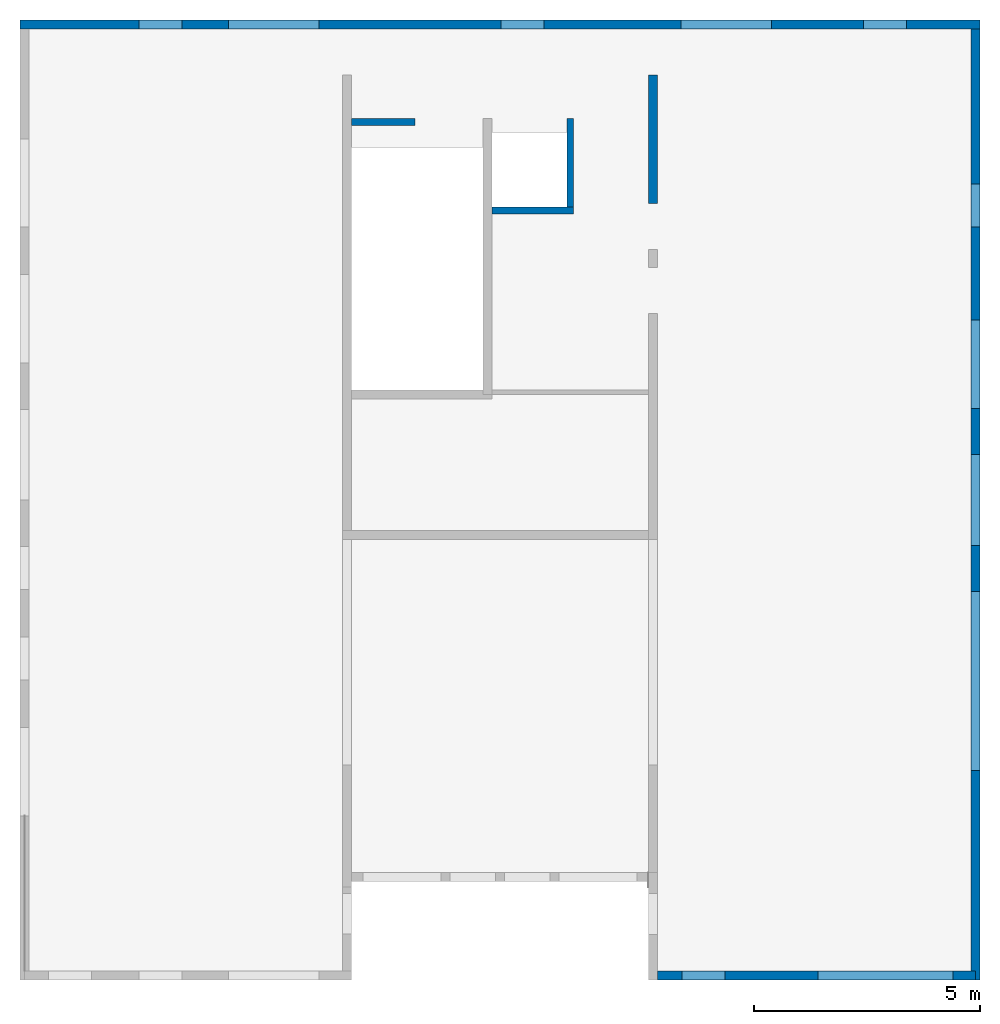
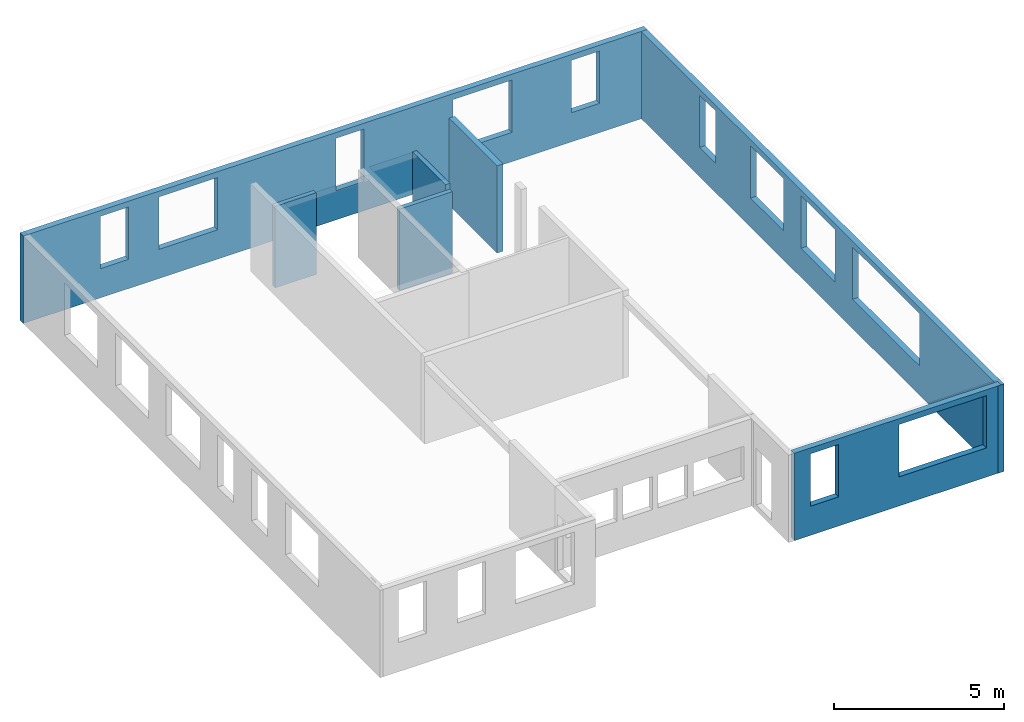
# One storey, part 3 of 3: 7 walls, 11 openings.
"""IFC2X3 building model written with IfcOpenShell, lengths in millimetres."""

from ifc_helpers import new_model, entity, si_unit, converted_unit, frame, frame_2d, origin, origin_with_axes, place, context, subcontext, project, spatial, polyline, rectangle, outline, extrude, material, layer, layer_set, layer_usage, element, save


model = new_model("IFC2X3")

# Units and contexts
model_context = context("Model", 3, precision=1e-05, world=origin())
body_context = subcontext(model_context, "Body", "Model", "MODEL_VIEW")
ifc_project = project(units=[si_unit("LENGTHUNIT", "METRE", prefix="MILLI"), converted_unit("PLANEANGLEUNIT", "DEGREE", entity("IfcPlaneAngleMeasure", 0.0174532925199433), si_unit("PLANEANGLEUNIT", "RADIAN"), dimensions=[0, 0, 0, 0, 0, 0, 0]), si_unit("AREAUNIT", "SQUARE_METRE"), si_unit("VOLUMEUNIT", "CUBIC_METRE")], contexts=[model_context])

# Building, storey
building_placement = place(None, origin())
building = spatial("IfcBuilding", under=ifc_project, at=building_placement, Name="Bâtiment", CompositionType="ELEMENT")
storey_placement = place(building_placement, frame((0.0, 0.0, 8450.0), z_axis=(0.0, 0.0, 1.0), x_axis=(1.0, 0.0, 0.0)))
storey = spatial("IfcBuildingStorey", under=building, at=storey_placement, Name="2. Etage supérieur", CompositionType="ELEMENT", Elevation=8450.0)

# Walls
ifc_material_1 = material(Name="<Unnamed Material>")
ifc_layer_1 = layer(ifc_material_1, 150.0)
ifc_layer_set_1 = layer_set([ifc_layer_1])
ifc_layer_usage_1 = layer_usage(ifc_layer_set_1, "AXIS2", "POSITIVE", -150.0)
wall_1_placement = place(storey_placement, frame((8181.015023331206, -14991.65782343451, -200.0), z_axis=(0.0, 0.0, 1.0), x_axis=(0.9999999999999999, 6.463777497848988e-14, 0.0)))
element("IfcWallStandardCase", 1, at=wall_1_placement, inside=storey, material=ifc_layer_usage_1, Name="<Unnamed Element>", context=body_context, shape_type="SweptSolid", body=[
    extrude(rectangle(XDim=1801.041602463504, YDim=150.0, at=frame_2d((900.5208012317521, 74.99999999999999), x_axis=(1.0, 0.0))), origin_with_axes(), (0.0, 0.0, 1.0), 2930.0),
])
ifc_material_2 = material(Name="<Unnamed Material>")
ifc_layer_2 = layer(ifc_material_2, 150.0)
ifc_layer_set_2 = layer_set([ifc_layer_2])
ifc_layer_usage_2 = layer_usage(ifc_layer_set_2, "AXIS2", "POSITIVE", -150.0)
wall_2_placement = place(storey_placement, frame((5082.184242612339, -13042.14547497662, -200.0), z_axis=(0.0, 0.0, 1.0), x_axis=(1.0, 0.0, 0.0)))
element("IfcWallStandardCase", 2, at=wall_2_placement, inside=storey, material=ifc_layer_usage_2, Name="<Unnamed Element>", context=body_context, shape_type="SweptSolid", body=[
    extrude(rectangle(XDim=1399.124954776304, YDim=150.0, at=frame_2d((699.5624773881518, 75.0), x_axis=(1.0, 0.0))), origin_with_axes(), (0.0, 0.0, 1.0), 2930.0),
])
ifc_material_3 = material(Name="<Unnamed Material>")
ifc_layer_3 = layer(ifc_material_3, 200.0)
ifc_layer_set_3 = layer_set([ifc_layer_3])
ifc_layer_usage_3 = layer_usage(ifc_layer_set_3, "AXIS2", "POSITIVE", 0.0)
wall_3_placement = place(storey_placement, frame((11832.34332290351, -14763.33342215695, -200.0), z_axis=(0.0, 0.0, 1.0), x_axis=(-1.926780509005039e-14, 0.9999999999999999, 0.0)))
element("IfcWallStandardCase", 3, at=wall_3_placement, inside=storey, material=ifc_layer_usage_3, Name="<Unnamed Element>", context=body_context, shape_type="SweptSolid", body=[
    extrude(rectangle(XDim=2832.169095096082, YDim=200.0, at=frame_2d((1416.084547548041, 99.99999999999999), x_axis=(1.0, 0.0))), origin_with_axes(), (0.0, 0.0, 1.0), 3139.999999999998),
])
ifc_material_4 = material(Name="<Unnamed Material>")
ifc_layer_4 = layer(ifc_material_4, 150.0)
ifc_layer_set_4 = layer_set([ifc_layer_4])
ifc_layer_usage_4 = layer_usage(ifc_layer_set_4, "AXIS2", "POSITIVE", -150.0)
wall_4_placement = place(storey_placement, frame((9982.056625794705, -14841.6578234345, -200.0), z_axis=(0.0, 0.0, 1.0), x_axis=(-3.358974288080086e-14, 0.9999999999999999, 0.0)))
element("IfcWallStandardCase", 4, at=wall_4_placement, inside=storey, material=ifc_layer_usage_4, Name="<Unnamed Element>", context=body_context, shape_type="SweptSolid", body=[
    extrude(rectangle(XDim=1949.512348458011, YDim=150.0, at=frame_2d((974.7561742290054, 74.99999999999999), x_axis=(1.0, 0.0))), origin_with_axes(), (0.0, 0.0, 1.0), 3139.999999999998),
])

# Wall, openings
ifc_material_5 = material(Name="<Unnamed Material>")
ifc_layer_5 = layer(ifc_material_5, 200.0)
ifc_layer_set_5 = layer_set([ifc_layer_5])
ifc_layer_usage_5 = layer_usage(ifc_layer_set_5, "AXIS2", "POSITIVE", -100.0)
wall_5_placement = place(storey_placement, frame((18855.56767275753, -31711.24569822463, -200.0), z_axis=(0.0, 0.0, 1.0), x_axis=(-0.9999999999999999, 0.0, 0.0)))
wall_5 = element("IfcWallStandardCase", 5, at=wall_5_placement, inside=storey, material=ifc_layer_usage_5, Name="<Unnamed Element>", context=body_context, shape_type="SweptSolid", body=[
    extrude(outline(polyline([(0.0, 0.0), (7024.28659565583, 0.0), (7024.327562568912, 200.0), (0.0, 200.0), (0.0, 0.0)])), origin_with_axes(), (0.0, 0.0, 1.0), 3139.999999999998),
])
opening_1_placement = place(wall_5_placement, frame((498.5222623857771, 0.0, 1050.0), z_axis=(0.0, 1.0, 0.0), x_axis=(0.0, 0.0, 1.0)))
element("IfcOpeningElement", 6, at=opening_1_placement, cuts=wall_5, Name="Baie de fenêtre", ObjectType="Opening", context=body_context, shape_type="SweptSolid", body=[
    extrude(rectangle(XDim=1880.0, YDim=2974.999999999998, at=frame_2d((940.0, 1487.499999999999), x_axis=(1.0, 0.0))), origin_with_axes(), (0.0, 0.0, 1.0), 200.0),
])
opening_2_placement = place(wall_5_placement, frame((5525.024596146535, 0.0, 1050.0), z_axis=(0.0, 1.0, 0.0), x_axis=(0.0, 0.0, 1.0)))
element("IfcOpeningElement", 7, at=opening_2_placement, cuts=wall_5, Name="Baie de fenêtre", ObjectType="Opening", context=body_context, shape_type="SweptSolid", body=[
    extrude(rectangle(XDim=1880.0, YDim=950.0, at=frame_2d((940.0, 475.0), x_axis=(1.0, 0.0))), origin_with_axes(), (0.0, 0.0, 1.0), 200.0),
])

ifc_material_6 = material(Name="<Unnamed Material>")
ifc_layer_6 = layer(ifc_material_6, 200.0)
ifc_layer_set_6 = layer_set([ifc_layer_6])
ifc_layer_usage_6 = layer_usage(ifc_layer_set_6, "AXIS2", "POSITIVE", -100.0)
wall_6_placement = place(storey_placement, frame((18955.56767275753, -31912.83099973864, -200.0), z_axis=(0.0, 0.0, 1.0), x_axis=(-3.464596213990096e-16, 1.0, 0.0)))
wall_6 = element("IfcWallStandardCase", 8, at=wall_6_placement, inside=storey, material=ifc_layer_usage_6, Name="<Unnamed Element>", context=body_context, shape_type="SweptSolid", body=[
    extrude(outline(polyline([(0.0, 0.0), (21000.88196368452, 0.0), (21000.88689433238, 200.0), (201.5853015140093, 199.9999999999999), (201.5853015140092, 99.99999999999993), (1.585301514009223, 100.0), (1.585301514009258, 200.0), (6.929192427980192e-14, 200.0), (0.0, 0.0)])), origin_with_axes(), (0.0, 0.0, 1.0), 3139.999999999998),
])
opening_3_placement = place(wall_6_placement, frame((16625.11835219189, 7.275957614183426e-12, 1050.0), z_axis=(0.0, 1.0, 0.0), x_axis=(0.0, 0.0, 1.0)))
element("IfcOpeningElement", 9, at=opening_3_placement, cuts=wall_6, Name="Baie de fenêtre", ObjectType="Opening", context=body_context, shape_type="SweptSolid", body=[
    extrude(rectangle(XDim=1880.0, YDim=950.0, at=frame_2d((940.0, 475.0), x_axis=(1.0, 0.0))), origin_with_axes(), (0.0, 0.0, 1.0), 200.0),
])
opening_4_placement = place(wall_6_placement, frame((9601.332221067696, 3.637978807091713e-12, 1050.0), z_axis=(0.0, 1.0, 0.0), x_axis=(0.0, 0.0, 1.0)))
element("IfcOpeningElement", 10, at=opening_4_placement, cuts=wall_6, Name="Baie de fenêtre", ObjectType="Opening", context=body_context, shape_type="SweptSolid", body=[
    extrude(rectangle(XDim=1880.0, YDim=2000.0, at=frame_2d((940.0, 1000.0), x_axis=(1.0, 0.0))), origin_with_axes(), (0.0, 0.0, 1.0), 200.0),
])
opening_5_placement = place(wall_6_placement, frame((4626.855684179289, 3.637978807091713e-12, 1050.0), z_axis=(0.0, 1.0, 0.0), x_axis=(0.0, 0.0, 1.0)))
element("IfcOpeningElement", 11, at=opening_5_placement, cuts=wall_6, Name="Baie de fenêtre", ObjectType="Opening", context=body_context, shape_type="SweptSolid", body=[
    extrude(rectangle(XDim=1880.0, YDim=3950.0, at=frame_2d((940.0, 1975.0), x_axis=(1.0, 0.0))), origin_with_axes(), (0.0, 0.0, 1.0), 199.9999999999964),
])
opening_6_placement = place(wall_6_placement, frame((12625.6078035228, 3.637978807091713e-12, 1050.0), z_axis=(0.0, 1.0, 0.0), x_axis=(0.0, 0.0, 1.0)))
element("IfcOpeningElement", 12, at=opening_6_placement, cuts=wall_6, Name="Baie de fenêtre", ObjectType="Opening", context=body_context, shape_type="SweptSolid", body=[
    extrude(rectangle(XDim=1880.0, YDim=1950.0, at=frame_2d((940.0, 975.0), x_axis=(1.0, 0.0))), origin_with_axes(), (0.0, 0.0, 1.0), 200.0),
])

ifc_material_7 = material(Name="<Unnamed Material>")
ifc_layer_7 = layer(ifc_material_7, 200.0000000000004)
ifc_layer_set_7 = layer_set([ifc_layer_7])
ifc_layer_usage_7 = layer_usage(ifc_layer_set_7, "AXIS2", "POSITIVE", -200.0)
wall_7_placement = place(storey_placement, frame((-2243.736034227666, -10911.42640454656, -200.0), z_axis=(0.0, 0.0, 1.0), x_axis=(0.999999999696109, -2.465323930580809e-05, 0.0)))
wall_7 = element("IfcWallStandardCase", 13, at=wall_7_placement, inside=storey, material=ifc_layer_usage_7, Name="<Unnamed Element>", context=body_context, shape_type="SweptSolid", body=[
    extrude(rectangle(XDim=21200.88408429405, YDim=200.0000000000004, at=frame_2d((10600.44204214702, 100.0000000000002), x_axis=(1.0, 0.0))), origin_with_axes(), (0.0, 0.0, 1.0), 3139.999999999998),
])
opening_7_placement = place(wall_7_placement, frame((14599.15779576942, 1.220296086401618e-11, 1050.0), z_axis=(0.0, 1.0, 0.0), x_axis=(0.0, 0.0, 1.0)))
element("IfcOpeningElement", 14, at=opening_7_placement, cuts=wall_7, Name="Baie de fenêtre", ObjectType="Opening", context=body_context, shape_type="SweptSolid", body=[
    extrude(rectangle(XDim=1880.0, YDim=1999.999999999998, at=frame_2d((940.0, 999.9999999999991), x_axis=(1.0, 0.0))), origin_with_axes(), (0.0, 0.0, 1.0), 200.0000000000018),
])
opening_8_placement = place(wall_7_placement, frame((18628.02429532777, 1.610500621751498e-11, 1050.0), z_axis=(0.0, 1.0, 0.0), x_axis=(0.0, 0.0, 1.0)))
element("IfcOpeningElement", 15, at=opening_8_placement, cuts=wall_7, Name="Baie de fenêtre", ObjectType="Opening", context=body_context, shape_type="SweptSolid", body=[
    extrude(rectangle(XDim=1880.0, YDim=950.0, at=frame_2d((940.0, 475.0), x_axis=(1.0, 0.0))), origin_with_axes(), (0.0, 0.0, 1.0), 200.0000000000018),
])
opening_9_placement = place(wall_7_placement, frame((10626.25926758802, 9.268197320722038e-12, 1050.0), z_axis=(0.0, 1.0, 0.0), x_axis=(0.0, 0.0, 1.0)))
element("IfcOpeningElement", 16, at=opening_9_placement, cuts=wall_7, Name="Baie de fenêtre", ObjectType="Opening", context=body_context, shape_type="SweptSolid", body=[
    extrude(rectangle(XDim=1880.0, YDim=949.9999999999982, at=frame_2d((940.0, 474.9999999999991), x_axis=(1.0, 0.0))), origin_with_axes(), (0.0, 0.0, 1.0), 200.0),
])
opening_10_placement = place(wall_7_placement, frame((4599.875714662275, 4.183278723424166e-12, 1050.0), z_axis=(0.0, 1.0, 0.0), x_axis=(0.0, 0.0, 1.0)))
element("IfcOpeningElement", 17, at=opening_10_placement, cuts=wall_7, Name="Baie de fenêtre", ObjectType="Opening", context=body_context, shape_type="SweptSolid", body=[
    extrude(rectangle(XDim=1880.0, YDim=2000.000000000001, at=frame_2d((940.0, 1000.0), x_axis=(1.0, 0.0))), origin_with_axes(), (0.0, 0.0, 1.0), 200.0),
])
opening_11_placement = place(wall_7_placement, frame((2627.222606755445, 3.418570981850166e-12, 1050.0), z_axis=(0.0, 1.0, 0.0), x_axis=(0.0, 0.0, 1.0)))
element("IfcOpeningElement", 18, at=opening_11_placement, cuts=wall_7, Name="Baie de fenêtre", ObjectType="Opening", context=body_context, shape_type="SweptSolid", body=[
    extrude(rectangle(XDim=1880.0, YDim=950.0000000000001, at=frame_2d((940.0, 475.0000000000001), x_axis=(1.0, 0.0))), origin_with_axes(), (0.0, 0.0, 1.0), 200.0000000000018),
])

save(model, "model.ifc")
